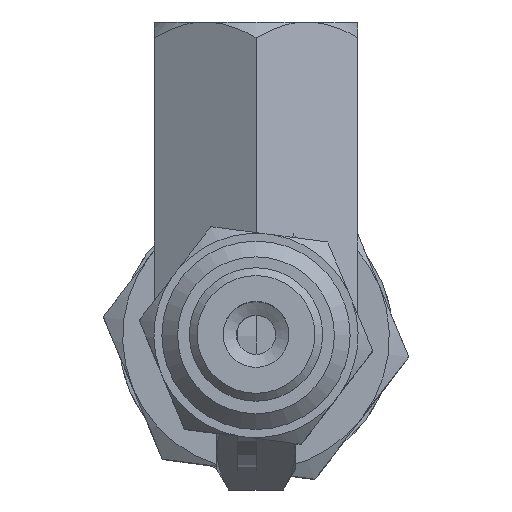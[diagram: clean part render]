
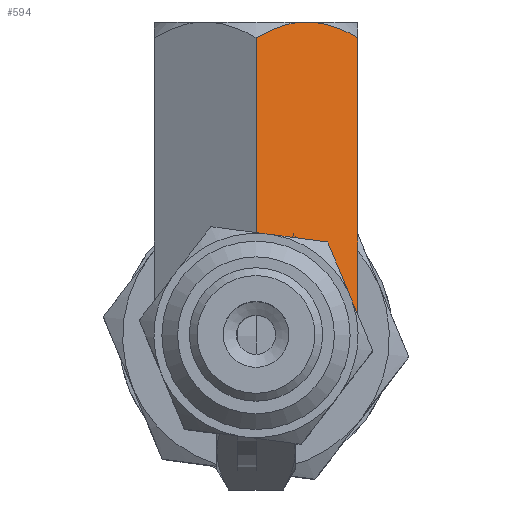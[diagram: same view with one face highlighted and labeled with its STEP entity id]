
A CAD part, top view. The second image highlights one B-rep face of the part: STEP entity #594.
In plain terms, the highlighted planar face has unit normal (0.5, 0, 0.866).
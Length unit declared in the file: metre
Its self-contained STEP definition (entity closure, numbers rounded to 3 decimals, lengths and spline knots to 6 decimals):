
#594 = ADVANCED_FACE( '', ( #912 ), #913, .T. );
#912 = FACE_OUTER_BOUND( '', #1220, .T. );
#913 = PLANE( '', #1221 );
#1220 = EDGE_LOOP( '', ( #1755, #1756, #1757, #1758, #1759, #1760 ) );
#1221 = AXIS2_PLACEMENT_3D( '', #1761, #1762, #1763 );
#1755 = ORIENTED_EDGE( '', *, *, #2190, .T. );
#1756 = ORIENTED_EDGE( '', *, *, #2191, .T. );
#1757 = ORIENTED_EDGE( '', *, *, #2192, .F. );
#1758 = ORIENTED_EDGE( '', *, *, #2193, .F. );
#1759 = ORIENTED_EDGE( '', *, *, #2194, .T. );
#1760 = ORIENTED_EDGE( '', *, *, #2195, .F. );
#1761 = CARTESIAN_POINT( '', ( 0.0065, 0.02, 0.003755 ) );
#1762 = DIRECTION( '', ( 0.5, 0., 0.866 ) );
#1763 = DIRECTION( '', ( 0.866, 0., -0.5 ) );
#2190 = EDGE_CURVE( '', #2463, #2464, #2465, .T. );
#2191 = EDGE_CURVE( '', #2464, #2466, #2467, .T. );
#2192 = EDGE_CURVE( '', #2468, #2466, #2469, .T. );
#2193 = EDGE_CURVE( '', #2470, #2468, #2471, .T. );
#2194 = EDGE_CURVE( '', #2470, #2472, #2473, .F. );
#2195 = EDGE_CURVE( '', #2463, #2472, #2474, .T. );
#2463 = VERTEX_POINT( '', #2973 );
#2464 = VERTEX_POINT( '', #2974 );
#2465 = LINE( '', #2975, #2976 );
#2466 = VERTEX_POINT( '', #2977 );
#2467 = B_SPLINE_CURVE_WITH_KNOTS( '', 3, ( #2978, #2979, #2980, #2981, #2982, #2983, #2984, #2985, #2986, #2987, #2988, #2989 ), .UNSPECIFIED., .F., .F., ( 4, 2, 2, 2, 2, 4 ), ( 0., 0.001938, 0.002908, 0.003877, 0.005815, 0.007753 ), .UNSPECIFIED. );
#2468 = VERTEX_POINT( '', #2990 );
#2469 = LINE( '', #2991, #2992 );
#2470 = VERTEX_POINT( '', #2993 );
#2471 = B_SPLINE_CURVE_WITH_KNOTS( '', 3, ( #2994, #2995, #2996, #2997, #2998, #2999, #3000, #3001, #3002, #3003 ), .UNSPECIFIED., .F., .F., ( 4, 2, 2, 2, 4 ), ( 0.010558, 0.011467, 0.012376, 0.013285, 0.014194 ), .UNSPECIFIED. );
#2472 = VERTEX_POINT( '', #3004 );
#2473 = LINE( '', #3005, #3006 );
#2474 = B_SPLINE_CURVE_WITH_KNOTS( '', 3, ( #3007, #3008, #3009, #3010, #3011, #3012, #3013, #3014 ), .UNSPECIFIED., .F., .F., ( 4, 2, 2, 4 ), ( 0.006363, 0.008185, 0.009096, 0.010007 ), .UNSPECIFIED. );
#2973 = CARTESIAN_POINT( '', ( 0., 0.019, 0.007508 ) );
#2974 = CARTESIAN_POINT( '', ( 0., 0.001008, 0.007508 ) );
#2975 = CARTESIAN_POINT( '', ( 0., 0.02, 0.007508 ) );
#2976 = VECTOR( '', #3450, 1. );
#2977 = CARTESIAN_POINT( '', ( 0.0065, 0.001007, 0.003755 ) );
#2978 = CARTESIAN_POINT( '', ( 0., 0.001008, 0.007508 ) );
#2979 = CARTESIAN_POINT( '', ( 0.000508, 0.000715, 0.007215 ) );
#2980 = CARTESIAN_POINT( '', ( 0.001027, 0.000465, 0.006915 ) );
#2981 = CARTESIAN_POINT( '', ( 0.001834, 0.000198, 0.006449 ) );
#2982 = CARTESIAN_POINT( '', ( 0.002108, 0.000127, 0.006291 ) );
#2983 = CARTESIAN_POINT( '', ( 0.002666, 0.000029, 0.005968 ) );
#2984 = CARTESIAN_POINT( '', ( 0.002954, 0.000003, 0.005802 ) );
#2985 = CARTESIAN_POINT( '', ( 0.003805, 0., 0.005311 ) );
#2986 = CARTESIAN_POINT( '', ( 0.004363, 0.000099, 0.004989 ) );
#2987 = CARTESIAN_POINT( '', ( 0.005463, 0.000459, 0.004354 ) );
#2988 = CARTESIAN_POINT( '', ( 0.005989, 0.000712, 0.00405 ) );
#2989 = CARTESIAN_POINT( '', ( 0.0065, 0.001007, 0.003755 ) );
#2990 = CARTESIAN_POINT( '', ( 0.0065, 0.019001, 0.003755 ) );
#2991 = CARTESIAN_POINT( '', ( 0.0065, 0.02, 0.003755 ) );
#2992 = VECTOR( '', #3451, 1. );
#2993 = CARTESIAN_POINT( '', ( 0.00349, 0.02, 0.005493 ) );
#2994 = CARTESIAN_POINT( '', ( 0.00349, 0.02, 0.005493 ) );
#2995 = CARTESIAN_POINT( '', ( 0.003754, 0.019987, 0.005341 ) );
#2996 = CARTESIAN_POINT( '', ( 0.004018, 0.019952, 0.005188 ) );
#2997 = CARTESIAN_POINT( '', ( 0.004535, 0.019846, 0.00489 ) );
#2998 = CARTESIAN_POINT( '', ( 0.004789, 0.019773, 0.004743 ) );
#2999 = CARTESIAN_POINT( '', ( 0.005292, 0.019598, 0.004453 ) );
#3000 = CARTESIAN_POINT( '', ( 0.005541, 0.019494, 0.004309 ) );
#3001 = CARTESIAN_POINT( '', ( 0.006028, 0.019262, 0.004027 ) );
#3002 = CARTESIAN_POINT( '', ( 0.006266, 0.019136, 0.00389 ) );
#3003 = CARTESIAN_POINT( '', ( 0.0065, 0.019001, 0.003755 ) );
#3004 = CARTESIAN_POINT( '', ( 0.003012, 0.02, 0.005769 ) );
#3005 = CARTESIAN_POINT( '', ( 0.0065, 0.02, 0.003755 ) );
#3006 = VECTOR( '', #3452, 1. );
#3007 = CARTESIAN_POINT( '', ( 0., 0.019, 0.007508 ) );
#3008 = CARTESIAN_POINT( '', ( 0.000471, 0.019272, 0.007236 ) );
#3009 = CARTESIAN_POINT( '', ( 0.000955, 0.019508, 0.006957 ) );
#3010 = CARTESIAN_POINT( '', ( 0.001714, 0.019774, 0.006518 ) );
#3011 = CARTESIAN_POINT( '', ( 0.001972, 0.019847, 0.006369 ) );
#3012 = CARTESIAN_POINT( '', ( 0.00249, 0.019953, 0.00607 ) );
#3013 = CARTESIAN_POINT( '', ( 0.00275, 0.019987, 0.00592 ) );
#3014 = CARTESIAN_POINT( '', ( 0.003012, 0.02, 0.005769 ) );
#3450 = DIRECTION( '', ( 0., -1., 0. ) );
#3451 = DIRECTION( '', ( 0., -1., 0. ) );
#3452 = DIRECTION( '', ( 0.866, 0., -0.5 ) );
